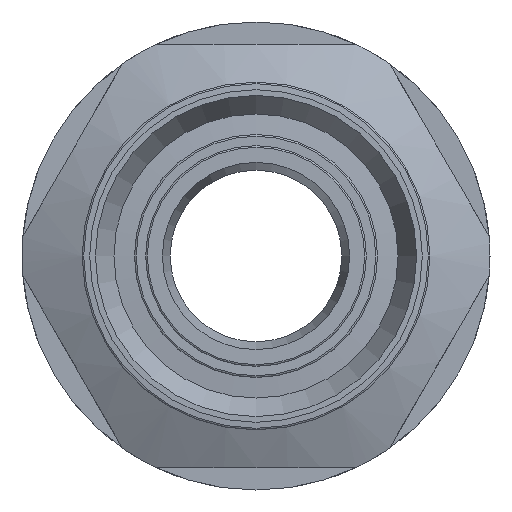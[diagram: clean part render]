
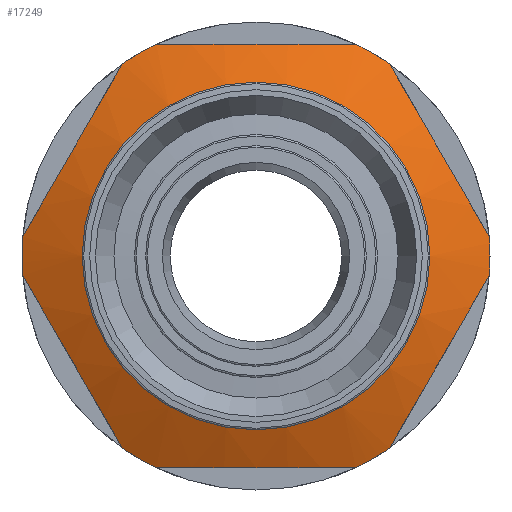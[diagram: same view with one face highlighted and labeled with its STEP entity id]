
A CAD part, left-side view. The second image highlights one B-rep face of the part: STEP entity #17249.
In plain terms, the highlighted conical face has half-angle 65.056 degrees and reference radius 15.625 mm.
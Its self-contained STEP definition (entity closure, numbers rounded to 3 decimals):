
#15=CONICAL_SURFACE('',#18218,15.625,1.135);
#49=(
BOUNDED_CURVE()
B_SPLINE_CURVE(2,(#23622,#23623,#23624),.UNSPECIFIED.,.F.,.F.)
B_SPLINE_CURVE_WITH_KNOTS((3,3),(0.,1.799),.UNSPECIFIED.)
CURVE()
GEOMETRIC_REPRESENTATION_ITEM()
RATIONAL_B_SPLINE_CURVE((1.,1.105,1.))
REPRESENTATION_ITEM('')
);
#50=(
BOUNDED_CURVE()
B_SPLINE_CURVE(2,(#24795,#24796,#24797),.UNSPECIFIED.,.F.,.F.)
B_SPLINE_CURVE_WITH_KNOTS((3,3),(0.,1.799),.UNSPECIFIED.)
CURVE()
GEOMETRIC_REPRESENTATION_ITEM()
RATIONAL_B_SPLINE_CURVE((1.,1.105,1.))
REPRESENTATION_ITEM('')
);
#51=(
BOUNDED_CURVE()
B_SPLINE_CURVE(2,(#24829,#24830,#24831),.UNSPECIFIED.,.F.,.F.)
B_SPLINE_CURVE_WITH_KNOTS((3,3),(0.,1.799),.UNSPECIFIED.)
CURVE()
GEOMETRIC_REPRESENTATION_ITEM()
RATIONAL_B_SPLINE_CURVE((1.,1.105,1.))
REPRESENTATION_ITEM('')
);
#52=(
BOUNDED_CURVE()
B_SPLINE_CURVE(2,(#24837,#24838,#24839),.UNSPECIFIED.,.F.,.F.)
B_SPLINE_CURVE_WITH_KNOTS((3,3),(0.,1.799),.UNSPECIFIED.)
CURVE()
GEOMETRIC_REPRESENTATION_ITEM()
RATIONAL_B_SPLINE_CURVE((1.,1.105,1.))
REPRESENTATION_ITEM('')
);
#53=(
BOUNDED_CURVE()
B_SPLINE_CURVE(2,(#24846,#24847,#24848),.UNSPECIFIED.,.F.,.F.)
B_SPLINE_CURVE_WITH_KNOTS((3,3),(0.,1.799),.UNSPECIFIED.)
CURVE()
GEOMETRIC_REPRESENTATION_ITEM()
RATIONAL_B_SPLINE_CURVE((1.,1.105,1.))
REPRESENTATION_ITEM('')
);
#54=(
BOUNDED_CURVE()
B_SPLINE_CURVE(2,(#24855,#24856,#24857),.UNSPECIFIED.,.F.,.F.)
B_SPLINE_CURVE_WITH_KNOTS((3,3),(0.,1.799),.UNSPECIFIED.)
CURVE()
GEOMETRIC_REPRESENTATION_ITEM()
RATIONAL_B_SPLINE_CURVE((1.,1.105,1.))
REPRESENTATION_ITEM('')
);
#912=CIRCLE('',#18199,21.);
#913=CIRCLE('',#18200,21.);
#914=CIRCLE('',#18201,21.);
#915=CIRCLE('',#18202,21.);
#916=CIRCLE('',#18203,21.);
#917=CIRCLE('',#18204,21.);
#918=CIRCLE('',#18205,21.);
#921=CIRCLE('',#18209,10.308);
#922=CIRCLE('',#18210,10.308);
#923=CIRCLE('',#18211,10.308);
#1686=FACE_OUTER_BOUND('',#2683,.T.);
#2683=EDGE_LOOP('',(#13070,#13071,#13072,#13073,#13074,#13075,#13076,#13077,
#13078,#13079,#13080,#13081,#13082,#13083,#13084,#13085,#13086,#13087));
#4924=LINE('',#24896,#6324);
#6324=VECTOR('',#20074,15.625);
#7348=VERTEX_POINT('',#23618);
#7350=VERTEX_POINT('',#23621);
#7594=VERTEX_POINT('',#24791);
#7596=VERTEX_POINT('',#24794);
#7606=VERTEX_POINT('',#24826);
#7607=VERTEX_POINT('',#24828);
#7608=VERTEX_POINT('',#24834);
#7609=VERTEX_POINT('',#24836);
#7610=VERTEX_POINT('',#24843);
#7611=VERTEX_POINT('',#24845);
#7612=VERTEX_POINT('',#24852);
#7613=VERTEX_POINT('',#24854);
#7616=VERTEX_POINT('',#24864);
#7619=VERTEX_POINT('',#24877);
#7620=VERTEX_POINT('',#24879);
#7621=VERTEX_POINT('',#24881);
#9261=EDGE_CURVE('',#7350,#7348,#49,.T.);
#9628=EDGE_CURVE('',#7596,#7594,#50,.T.);
#9642=EDGE_CURVE('',#7607,#7606,#51,.T.);
#9645=EDGE_CURVE('',#7609,#7608,#52,.T.);
#9648=EDGE_CURVE('',#7611,#7610,#53,.T.);
#9651=EDGE_CURVE('',#7613,#7612,#54,.T.);
#9656=EDGE_CURVE('',#7616,#7348,#912,.T.);
#9657=EDGE_CURVE('',#7350,#7608,#913,.T.);
#9658=EDGE_CURVE('',#7609,#7606,#914,.T.);
#9659=EDGE_CURVE('',#7607,#7612,#915,.T.);
#9660=EDGE_CURVE('',#7613,#7594,#916,.T.);
#9661=EDGE_CURVE('',#7596,#7610,#917,.T.);
#9662=EDGE_CURVE('',#7611,#7616,#918,.T.);
#9665=EDGE_CURVE('',#7619,#7620,#921,.T.);
#9666=EDGE_CURVE('',#7620,#7621,#922,.T.);
#9667=EDGE_CURVE('',#7621,#7619,#923,.T.);
#9674=EDGE_CURVE('',#7616,#7621,#4924,.T.);
#13070=ORIENTED_EDGE('',*,*,#9642,.T.);
#13071=ORIENTED_EDGE('',*,*,#9658,.F.);
#13072=ORIENTED_EDGE('',*,*,#9645,.T.);
#13073=ORIENTED_EDGE('',*,*,#9657,.F.);
#13074=ORIENTED_EDGE('',*,*,#9261,.T.);
#13075=ORIENTED_EDGE('',*,*,#9656,.F.);
#13076=ORIENTED_EDGE('',*,*,#9674,.T.);
#13077=ORIENTED_EDGE('',*,*,#9666,.F.);
#13078=ORIENTED_EDGE('',*,*,#9665,.F.);
#13079=ORIENTED_EDGE('',*,*,#9667,.F.);
#13080=ORIENTED_EDGE('',*,*,#9674,.F.);
#13081=ORIENTED_EDGE('',*,*,#9662,.F.);
#13082=ORIENTED_EDGE('',*,*,#9648,.T.);
#13083=ORIENTED_EDGE('',*,*,#9661,.F.);
#13084=ORIENTED_EDGE('',*,*,#9628,.T.);
#13085=ORIENTED_EDGE('',*,*,#9660,.F.);
#13086=ORIENTED_EDGE('',*,*,#9651,.T.);
#13087=ORIENTED_EDGE('',*,*,#9659,.F.);
#17249=ADVANCED_FACE('',(#1686),#15,.T.);
#18199=AXIS2_PLACEMENT_3D('',#24866,#20033,#20034);
#18200=AXIS2_PLACEMENT_3D('',#24867,#20035,#20036);
#18201=AXIS2_PLACEMENT_3D('',#24868,#20037,#20038);
#18202=AXIS2_PLACEMENT_3D('',#24869,#20039,#20040);
#18203=AXIS2_PLACEMENT_3D('',#24870,#20041,#20042);
#18204=AXIS2_PLACEMENT_3D('',#24871,#20043,#20044);
#18205=AXIS2_PLACEMENT_3D('',#24872,#20045,#20046);
#18209=AXIS2_PLACEMENT_3D('',#24880,#20053,#20054);
#18210=AXIS2_PLACEMENT_3D('',#24882,#20055,#20056);
#18211=AXIS2_PLACEMENT_3D('',#24883,#20057,#20058);
#18218=AXIS2_PLACEMENT_3D('',#24895,#20072,#20073);
#20033=DIRECTION('center_axis',(1.,0.,0.));
#20034=DIRECTION('ref_axis',(0.,0.,-1.));
#20035=DIRECTION('center_axis',(1.,0.,0.));
#20036=DIRECTION('ref_axis',(0.,0.,-1.));
#20037=DIRECTION('center_axis',(1.,0.,0.));
#20038=DIRECTION('ref_axis',(0.,0.,-1.));
#20039=DIRECTION('center_axis',(1.,0.,0.));
#20040=DIRECTION('ref_axis',(0.,0.,-1.));
#20041=DIRECTION('center_axis',(1.,0.,0.));
#20042=DIRECTION('ref_axis',(0.,0.,-1.));
#20043=DIRECTION('center_axis',(1.,0.,0.));
#20044=DIRECTION('ref_axis',(0.,0.,-1.));
#20045=DIRECTION('center_axis',(1.,0.,0.));
#20046=DIRECTION('ref_axis',(0.,0.,-1.));
#20053=DIRECTION('center_axis',(-1.,0.,0.));
#20054=DIRECTION('ref_axis',(0.,-1.,0.));
#20055=DIRECTION('center_axis',(-1.,0.,0.));
#20056=DIRECTION('ref_axis',(0.,-1.,0.));
#20057=DIRECTION('center_axis',(-1.,0.,0.));
#20058=DIRECTION('ref_axis',(0.,-1.,0.));
#20072=DIRECTION('center_axis',(1.,0.,0.));
#20073=DIRECTION('ref_axis',(0.,1.,0.));
#20074=DIRECTION('',(-0.422,0.907,0.));
#23618=CARTESIAN_POINT('',(21.7,-20.927,-1.754));
#23621=CARTESIAN_POINT('',(21.7,-11.982,-17.246));
#23622=CARTESIAN_POINT('Ctrl Pts',(21.7,-11.982,-17.246));
#23623=CARTESIAN_POINT('Ctrl Pts',(19.928,-16.454,-9.5));
#23624=CARTESIAN_POINT('Ctrl Pts',(21.7,-20.927,-1.754));
#24791=CARTESIAN_POINT('',(21.7,8.944,19.));
#24794=CARTESIAN_POINT('',(21.7,-8.944,19.));
#24795=CARTESIAN_POINT('Ctrl Pts',(21.7,-8.944,19.));
#24796=CARTESIAN_POINT('Ctrl Pts',(19.928,0.,
19.));
#24797=CARTESIAN_POINT('Ctrl Pts',(21.7,8.944,19.));
#24826=CARTESIAN_POINT('',(21.7,11.982,-17.246));
#24828=CARTESIAN_POINT('',(21.7,20.927,-1.754));
#24829=CARTESIAN_POINT('Ctrl Pts',(21.7,20.927,-1.754));
#24830=CARTESIAN_POINT('Ctrl Pts',(19.928,16.454,-9.5));
#24831=CARTESIAN_POINT('Ctrl Pts',(21.7,11.982,-17.246));
#24834=CARTESIAN_POINT('',(21.7,-8.944,-19.));
#24836=CARTESIAN_POINT('',(21.7,8.944,-19.));
#24837=CARTESIAN_POINT('Ctrl Pts',(21.7,8.944,-19.));
#24838=CARTESIAN_POINT('Ctrl Pts',(19.928,0.,
-19.));
#24839=CARTESIAN_POINT('Ctrl Pts',(21.7,-8.944,-19.));
#24843=CARTESIAN_POINT('',(21.7,-11.982,17.246));
#24845=CARTESIAN_POINT('',(21.7,-20.927,1.754));
#24846=CARTESIAN_POINT('Ctrl Pts',(21.7,-20.927,1.754));
#24847=CARTESIAN_POINT('Ctrl Pts',(19.928,-16.454,9.5));
#24848=CARTESIAN_POINT('Ctrl Pts',(21.7,-11.982,17.246));
#24852=CARTESIAN_POINT('',(21.7,20.927,1.754));
#24854=CARTESIAN_POINT('',(21.7,11.982,17.246));
#24855=CARTESIAN_POINT('Ctrl Pts',(21.7,11.982,17.246));
#24856=CARTESIAN_POINT('Ctrl Pts',(19.928,16.454,9.5));
#24857=CARTESIAN_POINT('Ctrl Pts',(21.7,20.927,1.754));
#24864=CARTESIAN_POINT('',(21.7,-21.,0.));
#24866=CARTESIAN_POINT('Origin',(21.7,0.,0.));
#24867=CARTESIAN_POINT('Origin',(21.7,0.,0.));
#24868=CARTESIAN_POINT('Origin',(21.7,0.,0.));
#24869=CARTESIAN_POINT('Origin',(21.7,0.,0.));
#24870=CARTESIAN_POINT('Origin',(21.7,0.,0.));
#24871=CARTESIAN_POINT('Origin',(21.7,0.,0.));
#24872=CARTESIAN_POINT('Origin',(21.7,0.,0.));
#24877=CARTESIAN_POINT('',(16.727,0.,10.308));
#24879=CARTESIAN_POINT('',(16.727,10.308,0.));
#24880=CARTESIAN_POINT('Origin',(16.727,0.,
0.));
#24881=CARTESIAN_POINT('',(16.727,-10.308,0.));
#24882=CARTESIAN_POINT('Origin',(16.727,0.,
0.));
#24883=CARTESIAN_POINT('Origin',(16.727,0.,
0.));
#24895=CARTESIAN_POINT('Origin',(19.2,0.,0.));
#24896=CARTESIAN_POINT('',(19.2,-15.625,0.));
